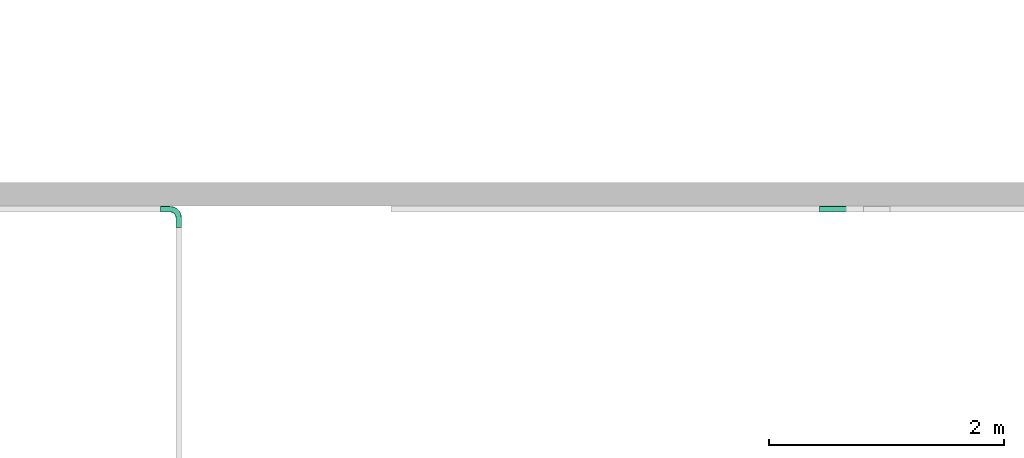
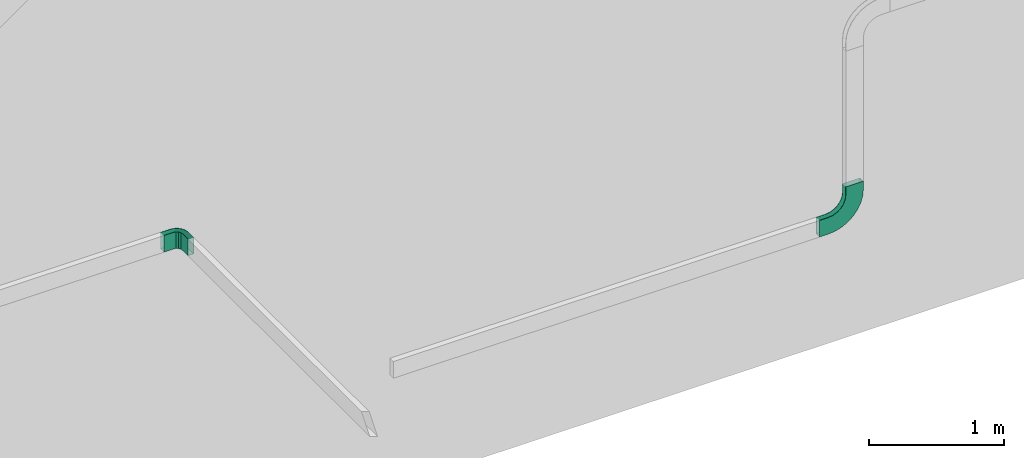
# One storey, part 35 of 197: 2 flow fittings.
"""IFC2X3 building model written with IfcOpenShell, lengths in metres."""

from ifc_helpers import new_model, entity, si_unit, converted_unit, direction, frame, origin, place, context, subcontext, project, spatial, faceted_brep, source, transform, mapped, material, type_object, type_shapes, element, save


model = new_model("IFC2X3")

# Units and contexts
model_context = context("Model", 3, precision=1e-05, world=origin(), true_north=direction((6.123031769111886e-17, 1.0)))
body_context = subcontext(model_context, "Body", "Model", "MODEL_VIEW")
ifc_project = project(units=[si_unit("LENGTHUNIT", "METRE"), converted_unit("PLANEANGLEUNIT", "DEGREE", entity("IfcPlaneAngleMeasure", 0.017453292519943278), si_unit("PLANEANGLEUNIT", "RADIAN"), dimensions=[0, 0, 0, 0, 0, 0, 0]), si_unit("AREAUNIT", "SQUARE_METRE")], contexts=[model_context])

# Site, building, storey
site_placement = place(None, origin())
site = spatial("IfcSite", under=ifc_project, at=site_placement, Name="Default", CompositionType="ELEMENT")
building_placement = place(site_placement, origin())
building = spatial("IfcBuilding", under=site, at=building_placement, CompositionType="ELEMENT")
storey_placement = place(building_placement, origin())
storey = spatial("IfcBuildingStorey", under=building, at=storey_placement, Name="Niveau 0", CompositionType="ELEMENT", Elevation=0.0)

# Flow fittings
ifc_material = material(Name="<Unnamed>")
cable_carrier_fitting_type_1 = type_object("IfcCableCarrierFittingType", Name="Chemin de câbles - Courbure concave:GOULOTTE INCENDIE", PredefinedType="NOTDEFINED", material=ifc_material)
shared_shape_1 = source(origin(), body_context, "Body", "Brep", [
    faceted_brep([(-0.2999999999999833, -0.0724600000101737, -0.022460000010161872), (-0.29999999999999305, 0.07499999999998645, -0.022460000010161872), (-0.29999999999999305, 0.07499999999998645, -0.025000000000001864), (-0.2999999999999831, -0.07500000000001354, -0.025000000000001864), (-0.2999999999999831, -0.07500000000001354, 0.024999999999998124), (-0.29999999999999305, 0.07499999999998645, 0.024999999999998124), (-0.29999999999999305, 0.07499999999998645, 0.022460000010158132), (-0.2999999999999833, -0.0724600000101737, 0.022460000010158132), (-0.22499999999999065, -0.0750000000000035, 0.024999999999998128), (-0.16647290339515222, -0.06923558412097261, 0.02499999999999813), (-0.11019497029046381, -0.05216385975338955, 0.02499999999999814), (-0.05832893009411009, -0.02444088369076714, 0.02499999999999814), (-0.012867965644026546, 0.01286796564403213, 0.024999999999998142), (0.024440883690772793, 0.058328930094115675, 0.024999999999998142), (0.05216385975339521, 0.11019497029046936, 0.024999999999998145), (0.0692355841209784, 0.16647290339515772, 0.024999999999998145), (0.07500000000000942, 0.2249999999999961, 0.024999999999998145), (0.07500000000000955, 0.2999999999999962, 0.024999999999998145), (-0.07499999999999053, 0.2999999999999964, 0.02499999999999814), (-0.07499999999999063, 0.2249999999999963, 0.02499999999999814), (-0.07673936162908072, 0.21178823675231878, 0.024999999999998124), (-0.0775555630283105, 0.20558857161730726, 0.024999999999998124), (-0.07883334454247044, 0.19588285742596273, 0.024999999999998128), (-0.08011112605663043, 0.18617714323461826, 0.02499999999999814), (-0.08385739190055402, 0.17713285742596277, 0.024999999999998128), (-0.08760365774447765, 0.16808857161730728, 0.024999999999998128), (-0.09134992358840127, 0.15904428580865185, 0.024999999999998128), (-0.0950961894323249, 0.14999999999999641, 0.02499999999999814), (-0.1010556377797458, 0.14223349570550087, 0.024999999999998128), (-0.10701508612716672, 0.13446699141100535, 0.024999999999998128), (-0.11297453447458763, 0.12670048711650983, 0.024999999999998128), (-0.11893398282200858, 0.1189339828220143, 0.02499999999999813), (-0.12670048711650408, 0.1129745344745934, 0.024999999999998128), (-0.13446699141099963, 0.10701508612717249, 0.024999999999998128), (-0.14223349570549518, 0.10105563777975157, 0.024999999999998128), (-0.1499999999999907, 0.09509618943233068, 0.02499999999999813), (-0.15904428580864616, 0.09134992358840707, 0.024999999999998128), (-0.16808857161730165, 0.08760365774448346, 0.024999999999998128), (-0.17713285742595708, 0.08385739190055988, 0.02499999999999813), (-0.18617714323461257, 0.08011112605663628, 0.02499999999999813), (-0.1958828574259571, 0.07883334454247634, 0.024999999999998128), (-0.2055885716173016, 0.07755556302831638, 0.024999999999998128), (-0.21178823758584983, 0.07673936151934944, 0.024999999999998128), (-0.22499999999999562, 0.07499999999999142, 0.024999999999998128), (-0.22499999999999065, -0.07500000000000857, -0.025000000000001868), (-0.16647290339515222, -0.06923558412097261, -0.02500000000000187), (-0.22499999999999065, 0.07499999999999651, -0.025000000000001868), (-0.2117882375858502, 0.0767393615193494, -0.025000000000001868), (-0.1985764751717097, 0.07847872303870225, -0.025000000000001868), (-0.18617714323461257, 0.08011112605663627, -0.02500000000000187), (-0.17713285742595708, 0.08385739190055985, -0.025000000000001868), (-0.16808857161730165, 0.08760365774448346, -0.025000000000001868), (-0.15904428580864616, 0.09134992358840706, -0.025000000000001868), (-0.1499999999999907, 0.09509618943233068, -0.02500000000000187), (-0.14223349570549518, 0.10105563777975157, -0.025000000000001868), (-0.13446699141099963, 0.10701508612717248, -0.025000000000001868), (-0.12670048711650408, 0.1129745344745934, -0.025000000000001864), (-0.11893398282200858, 0.11893398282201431, -0.02500000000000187), (-0.11297453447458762, 0.12670048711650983, -0.025000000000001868), (-0.1070150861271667, 0.13446699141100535, -0.025000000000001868), (-0.1010556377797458, 0.14223349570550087, -0.025000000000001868), (-0.0950961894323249, 0.14999999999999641, -0.025000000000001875), (-0.09134992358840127, 0.15904428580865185, -0.025000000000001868), (-0.08760365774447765, 0.16808857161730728, -0.025000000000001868), (-0.08385739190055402, 0.17713285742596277, -0.025000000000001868), (-0.08011112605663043, 0.18617714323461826, -0.025000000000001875), (-0.07847872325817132, 0.19857647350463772, -0.025000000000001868), (-0.07673936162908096, 0.21178823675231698, -0.025000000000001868), (-0.0749999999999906, 0.2249999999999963, -0.025000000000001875), (-0.07499999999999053, 0.2999999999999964, -0.025000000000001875), (0.07500000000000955, 0.2999999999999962, -0.025000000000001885), (0.07500000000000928, 0.22499999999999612, -0.025000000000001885), (0.06923558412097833, 0.16647290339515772, -0.025000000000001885), (0.05216385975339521, 0.11019497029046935, -0.025000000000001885), (0.024440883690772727, 0.058328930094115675, -0.02500000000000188), (-0.012867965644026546, 0.01286796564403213, -0.02500000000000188), (-0.05832893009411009, -0.02444088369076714, -0.025000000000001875), (-0.11019497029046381, -0.05216385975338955, -0.025000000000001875), (-0.22499999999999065, 0.07499999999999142, -0.02246000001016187), (-0.22499999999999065, 0.07499999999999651, 0.02246000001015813), (-0.22499999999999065, -0.07246000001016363, -0.02246000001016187), (-0.16696843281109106, -0.06674438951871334, -0.022460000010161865), (-0.11116698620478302, -0.04981720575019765, -0.02246000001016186), (-0.0597400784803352, -0.022328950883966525, -0.02246000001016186), (-0.014664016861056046, 0.014664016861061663, -0.022460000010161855), (0.022328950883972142, 0.05974007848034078, -0.022460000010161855), (0.049817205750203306, 0.11116698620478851, -0.02246000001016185), (0.0667443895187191, 0.1669684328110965, -0.02246000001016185), (0.0724600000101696, 0.2249999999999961, -0.02246000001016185), (0.07246000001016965, 0.2999999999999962, -0.02246000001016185), (-0.07499999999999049, 0.2999999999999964, -0.02246000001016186), (-0.07499999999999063, 0.2249999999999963, -0.02246000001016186), (-0.07627778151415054, 0.2152942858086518, -0.022460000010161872), (-0.0775555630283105, 0.20558857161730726, -0.022460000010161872), (-0.07883334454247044, 0.19588285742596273, -0.022460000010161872), (-0.08011112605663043, 0.1861771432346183, -0.02246000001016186), (-0.08385739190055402, 0.17713285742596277, -0.02246000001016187), (-0.08760365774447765, 0.16808857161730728, -0.022460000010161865), (-0.09134992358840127, 0.1590442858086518, -0.02246000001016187), (-0.09509618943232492, 0.14999999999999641, -0.02246000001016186), (-0.10105563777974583, 0.14223349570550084, -0.02246000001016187), (-0.10701508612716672, 0.13446699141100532, -0.022460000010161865), (-0.11297453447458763, 0.12670048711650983, -0.02246000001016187), (-0.11893398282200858, 0.11893398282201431, -0.022460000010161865), (-0.12670048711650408, 0.1129745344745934, -0.02246000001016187), (-0.13446699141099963, 0.10701508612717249, -0.02246000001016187), (-0.14223349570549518, 0.10105563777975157, -0.02246000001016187), (-0.1499999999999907, 0.0950961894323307, -0.022460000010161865), (-0.15904428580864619, 0.09134992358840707, -0.02246000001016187), (-0.16808857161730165, 0.08760365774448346, -0.022460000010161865), (-0.1771328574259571, 0.08385739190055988, -0.02246000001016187), (-0.18617714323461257, 0.08011112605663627, -0.022460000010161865), (-0.1958828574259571, 0.07883334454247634, -0.02246000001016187), (-0.2055885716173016, 0.07755556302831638, -0.02246000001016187), (-0.21178823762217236, 0.07673936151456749, -0.02246000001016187), (-0.22499999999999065, -0.07246000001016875, 0.02246000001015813), (-0.16696843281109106, -0.06674438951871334, 0.022460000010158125), (-0.21529428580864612, 0.07627778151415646, 0.02246000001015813), (-0.2055885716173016, 0.07755556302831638, 0.02246000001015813), (-0.1958828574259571, 0.07883334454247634, 0.02246000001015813), (-0.18617714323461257, 0.08011112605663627, 0.022460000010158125), (-0.17713285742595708, 0.08385739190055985, 0.02246000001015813), (-0.16808857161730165, 0.08760365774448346, 0.02246000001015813), (-0.15904428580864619, 0.09134992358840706, 0.02246000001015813), (-0.1499999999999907, 0.09509618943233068, 0.022460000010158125), (-0.14223349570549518, 0.10105563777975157, 0.02246000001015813), (-0.13446699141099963, 0.10701508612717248, 0.02246000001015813), (-0.12670048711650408, 0.1129745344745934, 0.02246000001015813), (-0.11893398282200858, 0.11893398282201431, 0.022460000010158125), (-0.11297453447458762, 0.12670048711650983, 0.02246000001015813), (-0.1070150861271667, 0.13446699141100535, 0.022460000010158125), (-0.10105563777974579, 0.14223349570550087, 0.02246000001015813), (-0.0950961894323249, 0.14999999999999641, 0.02246000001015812), (-0.09134992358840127, 0.1590442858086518, 0.02246000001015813), (-0.08760365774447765, 0.16808857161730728, 0.02246000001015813), (-0.08385739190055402, 0.17713285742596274, 0.02246000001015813), (-0.08011112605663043, 0.18617714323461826, 0.02246000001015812), (-0.07883334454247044, 0.1958828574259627, 0.02246000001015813), (-0.0775555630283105, 0.20558857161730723, 0.02246000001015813), (-0.07627778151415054, 0.2152942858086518, 0.02246000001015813), (-0.0749999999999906, 0.2249999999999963, 0.02246000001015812), (-0.07499999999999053, 0.2999999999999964, 0.02246000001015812), (0.0724600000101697, 0.2999999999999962, 0.02246000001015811), (0.07246000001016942, 0.2249999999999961, 0.02246000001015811), (0.06674438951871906, 0.1669684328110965, 0.02246000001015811), (0.04981720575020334, 0.11116698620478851, 0.02246000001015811), (0.022328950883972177, 0.05974007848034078, 0.022460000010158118), (-0.014664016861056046, 0.014664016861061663, 0.022460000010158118), (-0.0597400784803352, -0.022328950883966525, 0.02246000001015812), (-0.11116698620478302, -0.04981720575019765, 0.02246000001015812)], [[[0, 1, 2, 3, 4, 5, 6, 7]], [[5, 4, 8, 9, 10, 11, 12, 13, 14, 15, 16, 17, 18, 19, 20, 21, 22, 23, 24, 25, 26, 27, 28, 29, 30, 31, 32, 33, 34, 35, 36, 37, 38, 39, 40, 41, 42, 43]], [[4, 3, 44, 8]], [[45, 44, 3, 2, 46, 47, 48, 49, 50, 51, 52, 53, 54, 55, 56, 57, 58, 59, 60, 61, 62, 63, 64, 65, 66, 67, 68, 69, 70, 71, 72, 73, 74, 75, 76, 77]], [[2, 1, 78, 46]], [[6, 5, 43, 79]], [[1, 0, 80, 81, 82, 83, 84, 85, 86, 87, 88, 89, 90, 91, 92, 93, 94, 95, 96, 97, 98, 99, 100, 101, 102, 103, 104, 105, 106, 107, 108, 109, 110, 111, 112, 113, 114, 78]], [[0, 7, 115, 80]], [[116, 115, 7, 6, 79, 117, 118, 119, 120, 121, 122, 123, 124, 125, 126, 127, 128, 129, 130, 131, 132, 133, 134, 135, 136, 137, 138, 139, 140, 141, 142, 143, 144, 145, 146, 147, 148, 149]], [[9, 8, 44, 45]], [[45, 77, 10, 9]], [[76, 11, 10, 77]], [[75, 12, 11, 76]], [[13, 74, 73, 14]], [[14, 73, 72, 15]], [[15, 72, 71, 16]], [[75, 74, 13, 12]], [[46, 78, 114, 113, 112, 111, 49, 48, 47]], [[41, 40, 39, 120, 119, 118, 117, 79, 43, 42]], [[108, 107, 53, 52, 51, 50, 49, 111, 110, 109]], [[35, 124, 123, 122, 121, 120, 39, 38, 37, 36]], [[55, 54, 53, 107, 106, 105, 104, 103, 57, 56]], [[127, 126, 125, 124, 35, 34, 33, 32, 31, 128]], [[95, 94, 93, 92, 91, 68, 67, 66, 65]], [[137, 136, 23, 22, 21, 20, 19, 140, 139, 138]], [[95, 65, 64, 63, 62, 61, 99, 98, 97, 96]], [[24, 23, 136, 135, 134, 133, 132, 27, 26, 25]], [[57, 103, 102, 101, 100, 99, 61, 60, 59, 58]], [[128, 31, 30, 29, 28, 27, 132, 131, 130, 129]], [[81, 80, 115, 116]], [[149, 82, 81, 116]], [[82, 149, 148, 83]], [[148, 147, 84, 83]], [[86, 85, 146, 145]], [[87, 86, 145, 144]], [[88, 87, 144, 143]], [[147, 146, 85, 84]], [[69, 90, 89, 142, 141, 18, 17, 70]], [[16, 71, 70, 17]], [[68, 91, 90, 69]], [[140, 19, 18, 141]], [[88, 143, 142, 89]]]),
])
type_shapes(cable_carrier_fitting_type_1, [shared_shape_1])
flow_fitting_1_placement = place(storey_placement, frame((-542.919454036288, 151.8253552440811, 1.1007853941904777), z_axis=(0.0, -1.0, 0.0), x_axis=(1.0, 0.0, 0.0)))
element("IfcFlowFitting", 1, at=flow_fitting_1_placement, inside=storey, type_object=cable_carrier_fitting_type_1, material=ifc_material, Name="Chemin de câbles - Courbure concave:GOULOTTE INCENDIE", ObjectType="Chemin de câbles - Courbure concave:GOULOTTE INCENDIE", context=body_context, shape_type="MappedRepresentation", body=[
    mapped(shared_shape_1, transform((0.0, 0.0, 0.0), scale=1.0)),
])
cable_carrier_fitting_type_2 = type_object("IfcCableCarrierFittingType", Name="Chemin de câbles - Courbure:GOULOTTE INTRUSION", PredefinedType="NOTDEFINED", material=ifc_material)
shared_shape_2 = source(origin(), body_context, "Body", "Brep", [
    faceted_brep([(-0.1549999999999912, -0.022460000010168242, -0.07246000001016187), (-0.1549999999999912, 0.02246000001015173, -0.07246000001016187), (-0.1549999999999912, 0.02246000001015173, 0.07499999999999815), (-0.1549999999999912, 0.024999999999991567, 0.07499999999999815), (-0.1549999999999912, 0.024999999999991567, -0.07500000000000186), (-0.1549999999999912, -0.02500000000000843, -0.07500000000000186), (-0.1549999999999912, -0.02500000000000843, 0.07499999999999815), (-0.1549999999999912, -0.02246000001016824, 0.07499999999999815), (-0.07499999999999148, -0.02500000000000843, -0.07500000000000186), (-0.07499999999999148, -0.02500000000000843, 0.07499999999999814), (-0.04409830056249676, -0.020105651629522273, 0.07499999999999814), (-0.0162214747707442, -0.005901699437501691, 0.07499999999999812), (0.005901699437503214, 0.016221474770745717, 0.07499999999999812), (0.020105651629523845, 0.04409830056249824, 0.07499999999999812), (0.02500000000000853, 0.07499999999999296, 0.07499999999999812), (0.0250000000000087, 0.15499999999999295, 0.07499999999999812), (0.022460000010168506, 0.15499999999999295, 0.07499999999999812), (0.0224600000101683, 0.07499999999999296, 0.07499999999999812), (0.0176899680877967, 0.044883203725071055, 0.07499999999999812), (0.003846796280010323, 0.01771444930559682, 0.07499999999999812), (-0.01771444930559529, -0.0038467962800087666, 0.07499999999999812), (-0.04488320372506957, -0.01768996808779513, 0.07499999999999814), (-0.07499999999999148, -0.022460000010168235, 0.07499999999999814), (-0.07499999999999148, 0.02246000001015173, 0.07499999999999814), (-0.06494690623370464, 0.024459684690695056, 0.07499999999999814), (-0.0548938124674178, 0.02645936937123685, 0.07499999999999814), (-0.046371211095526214, 0.032153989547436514, 0.07499999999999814), (-0.03784860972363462, 0.037848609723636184, 0.07499999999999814), (-0.03215398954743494, 0.04637121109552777, 0.07499999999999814), (-0.02645936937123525, 0.05489381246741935, 0.07499999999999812), (-0.023985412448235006, 0.06733123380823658, 0.07499999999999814), (-0.02246000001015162, 0.07499999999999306, 0.07499999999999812), (-0.022460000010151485, 0.15499999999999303, 0.07499999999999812), (-0.02499999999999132, 0.15499999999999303, 0.07499999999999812), (-0.024999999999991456, 0.07499999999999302, 0.07499999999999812), (-0.026392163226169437, 0.06800112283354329, 0.07499999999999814), (-0.028806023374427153, 0.05586582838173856, 0.07499999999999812), (-0.03422534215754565, 0.04775524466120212, 0.07499999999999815), (-0.03964466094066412, 0.039644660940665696, 0.07499999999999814), (-0.04775524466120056, 0.034225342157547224, 0.07499999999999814), (-0.055865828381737, 0.028806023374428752, 0.07499999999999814), (-0.06543291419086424, 0.026903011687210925, 0.07499999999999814), (-0.07499999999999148, 0.024999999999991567, 0.07499999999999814), (-0.07499999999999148, -0.022460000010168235, -0.0724600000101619), (-0.04488320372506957, -0.01768996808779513, -0.07246000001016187), (-0.01771444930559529, -0.0038467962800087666, -0.07246000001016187), (0.003846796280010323, 0.01771444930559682, -0.07246000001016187), (0.0176899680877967, 0.044883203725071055, -0.07246000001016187), (0.02246000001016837, 0.07499999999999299, -0.07246000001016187), (0.022460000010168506, 0.15499999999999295, -0.07246000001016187), (-0.022460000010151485, 0.15499999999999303, -0.07246000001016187), (-0.02246000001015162, 0.07499999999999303, -0.07246000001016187), (-0.024459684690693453, 0.0649469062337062, -0.07246000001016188), (-0.02645936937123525, 0.05489381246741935, -0.07246000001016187), (-0.03215398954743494, 0.046371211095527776, -0.07246000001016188), (-0.03784860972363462, 0.03784860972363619, -0.07246000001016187), (-0.046371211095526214, 0.03215398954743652, -0.07246000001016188), (-0.0548938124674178, 0.02645936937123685, -0.07246000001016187), (-0.06494690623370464, 0.024459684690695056, -0.07246000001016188), (-0.07499999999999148, 0.02246000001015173, -0.07246000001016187), (-0.07499999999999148, 0.024999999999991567, -0.07500000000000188), (-0.04409830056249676, -0.020105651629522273, -0.07500000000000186), (-0.06543291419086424, 0.026903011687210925, -0.07500000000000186), (-0.055865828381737, 0.028806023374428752, -0.07500000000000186), (-0.04775524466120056, 0.034225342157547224, -0.07500000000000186), (-0.03964466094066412, 0.039644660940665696, -0.07500000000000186), (-0.03422534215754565, 0.04775524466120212, -0.07500000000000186), (-0.028806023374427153, 0.05586582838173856, -0.07500000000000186), (-0.02690301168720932, 0.06543291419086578, -0.07500000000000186), (-0.024999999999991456, 0.07499999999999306, -0.07500000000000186), (-0.02499999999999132, 0.15499999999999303, -0.07500000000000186), (0.0250000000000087, 0.15499999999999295, -0.07500000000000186), (0.02500000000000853, 0.07499999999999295, -0.07500000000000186), (0.020105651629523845, 0.04409830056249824, -0.07500000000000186), (0.005901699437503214, 0.016221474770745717, -0.07500000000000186), (-0.0162214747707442, -0.005901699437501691, -0.07500000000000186)], [[[0, 1, 2, 3, 4, 5, 6, 7]], [[6, 5, 8, 9]], [[7, 6, 9, 10, 11, 12, 13, 14, 15, 16, 17, 18, 19, 20, 21, 22]], [[2, 23, 24, 25, 26, 27, 28, 29, 30, 31, 32, 33, 34, 35, 36, 37, 38, 39, 40, 41, 42, 3]], [[0, 7, 22, 43]], [[1, 0, 43, 44, 45, 46, 47, 48, 49, 50, 51, 52, 53, 54, 55, 56, 57, 58, 59]], [[2, 1, 59, 23]], [[4, 3, 42, 60]], [[61, 8, 5, 4, 60, 62, 63, 64, 65, 66, 67, 68, 69, 70, 71, 72, 73, 74, 75]], [[61, 75, 11, 10]], [[8, 61, 10, 9]], [[75, 74, 12, 11]], [[12, 74, 73, 13]], [[13, 73, 72, 14]], [[20, 45, 44, 21]], [[22, 21, 44, 43]], [[20, 19, 46, 45]], [[47, 46, 19, 18]], [[48, 47, 18, 17]], [[57, 25, 24, 23, 59, 58]], [[55, 27, 26, 25, 57, 56]], [[51, 31, 30, 29, 53, 52]], [[27, 55, 54, 53, 29, 28]], [[62, 60, 42, 41, 40, 63]], [[39, 38, 65, 64, 63, 40]], [[35, 34, 69, 68, 67, 36]], [[66, 65, 38, 37, 36, 67]], [[70, 33, 32, 50, 49, 16, 15, 71]], [[14, 72, 71, 15]], [[48, 17, 16, 49]], [[31, 51, 50, 32]], [[69, 34, 33, 70]]]),
])
type_shapes(cable_carrier_fitting_type_2, [shared_shape_2])
flow_fitting_2_placement = place(storey_placement, frame((-548.6665951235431, 151.82535524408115, 2.9257853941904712), z_axis=(0.0, 0.0, 1.0), x_axis=(0.0, 1.0, 0.0)))
element("IfcFlowFitting", 2, at=flow_fitting_2_placement, inside=storey, type_object=cable_carrier_fitting_type_2, material=ifc_material, Name="Chemin de câbles - Courbure:GOULOTTE INTRUSION", ObjectType="Chemin de câbles - Courbure:GOULOTTE INTRUSION", context=body_context, shape_type="MappedRepresentation", body=[
    mapped(shared_shape_2, transform((0.0, 0.0, 0.0), scale=1.0)),
])

save(model, "model.ifc")
